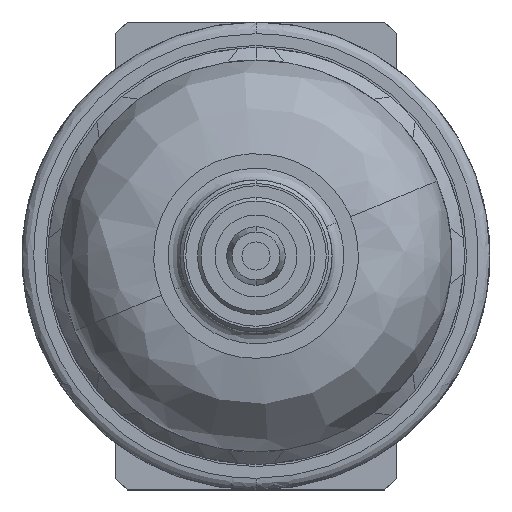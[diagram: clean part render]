
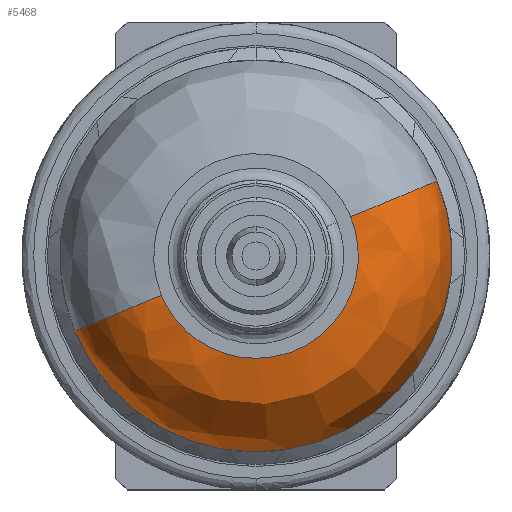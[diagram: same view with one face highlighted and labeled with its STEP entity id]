
A CAD part, front view. The second image highlights one B-rep face of the part: STEP entity #5468.
In plain terms, the highlighted free-form (B-spline) face has degree [3, 3] with [4, 4] control points.
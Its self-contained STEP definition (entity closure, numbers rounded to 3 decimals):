
#163 = VERTEX_POINT ( 'NONE', #5475 ) ;
#393 = CARTESIAN_POINT ( 'NONE',  ( -2.13, -55., -29.969 ) ) ;
#463 = EDGE_LOOP ( 'NONE', ( #1384, #2762, #4159, #5636, #4257 ) ) ;
#490 = EDGE_CURVE ( 'NONE', #6061, #599, #1857, .T. ) ;
#577 = EDGE_CURVE ( 'NONE', #6061, #163, #6000, .T. ) ;
#599 = VERTEX_POINT ( 'NONE', #4326 ) ;
#828 = CARTESIAN_POINT ( 'NONE',  ( 28.295, -47., -24.54 ) ) ;
#992 = DIRECTION ( 'NONE',  ( -0.383, 0., 0.924 ) ) ;
#1083 = VERTEX_POINT ( 'NONE', #5359 ) ;
#1294 = CARTESIAN_POINT ( 'NONE',  ( -2.655, -51.686, -37.36 ) ) ;
#1384 = ORIENTED_EDGE ( 'NONE', *, *, #577, .F. ) ;
#1571 = DIRECTION ( 'NONE',  ( 0.383, 0., -0.924 ) ) ;
#1613 = EDGE_CURVE ( 'NONE', #1083, #4394, #5762, .T. ) ;
#1652 = CIRCLE ( 'NONE', #4777, 16.75 ) ;
#1857 =( BOUNDED_CURVE ( )  B_SPLINE_CURVE ( 3, ( #5675, #2790, #4744, #5162 ),
 .UNSPECIFIED., .F., .T. ) 
 B_SPLINE_CURVE_WITH_KNOTS ( ( 4, 4 ),
 ( 0., 1. ),
 .UNSPECIFIED. ) 
 CURVE ( )  GEOMETRIC_REPRESENTATION_ITEM ( )  RATIONAL_B_SPLINE_CURVE ( ( 1., 0.333, 0.333, 1. ) ) 
 REPRESENTATION_ITEM ( '' )  );
#2299 = EDGE_CURVE ( 'NONE', #599, #4394, #3605, .T. ) ;
#2375 = DIRECTION ( 'NONE',  ( 0.924, 0., 0.383 ) ) ;
#2393 = CARTESIAN_POINT ( 'NONE',  ( 8.084, -47., 3.348 ) ) ;
#2460 = CARTESIAN_POINT ( 'NONE',  ( -15.475, -47., -6.41 ) ) ;
#2529 = CARTESIAN_POINT ( 'NONE',  ( 0., -47., 0. ) ) ;
#2677 = DIRECTION ( 'NONE',  ( 0., 1., 0. ) ) ;
#2687 = CARTESIAN_POINT ( 'NONE',  ( 12.414, -55., 5.142 ) ) ;
#2712 = CARTESIAN_POINT ( 'NONE',  ( -15.475, -51.686, -6.41 ) ) ;
#2749 = CARTESIAN_POINT ( 'NONE',  ( 28.295, -51.686, -24.54 ) ) ;
#2762 = ORIENTED_EDGE ( 'NONE', *, *, #490, .T. ) ;
#2769 = CARTESIAN_POINT ( 'NONE',  ( 14.781, -55., -12.819 ) ) ;
#2790 = CARTESIAN_POINT ( 'NONE',  ( 14.781, -55., -12.819 ) ) ;
#2990 = DIRECTION ( 'NONE',  ( 0., 0., 1. ) ) ;
#3605 = CIRCLE ( 'NONE', #4725, 8. ) ;
#3616 = DIRECTION ( 'NONE',  ( 0., 0., 1. ) ) ;
#3712 = CARTESIAN_POINT ( 'NONE',  ( -8.084, -55., -3.348 ) ) ;
#3732 = CARTESIAN_POINT ( 'NONE',  ( -12.414, -55., -5.142 ) ) ;
#4100 = EDGE_CURVE ( 'NONE', #163, #1083, #1652, .T. ) ;
#4159 = ORIENTED_EDGE ( 'NONE', *, *, #2299, .T. ) ;
#4237 = FACE_OUTER_BOUND ( 'NONE', #463, .T. ) ;
#4257 = ORIENTED_EDGE ( 'NONE', *, *, #4100, .F. ) ;
#4326 = CARTESIAN_POINT ( 'NONE',  ( -8.084, -55., -3.348 ) ) ;
#4394 = VERTEX_POINT ( 'NONE', #2460 ) ;
#4725 = AXIS2_PLACEMENT_3D ( 'NONE', #5898, #1571, #4924 ) ;
#4744 = CARTESIAN_POINT ( 'NONE',  ( -1.387, -55., -19.516 ) ) ;
#4777 = AXIS2_PLACEMENT_3D ( 'NONE', #5087, #2677, #3616 ) ;
#4924 = DIRECTION ( 'NONE',  ( -0.924, 0., -0.383 ) ) ;
#5057 =( BOUNDED_SURFACE ( )  B_SPLINE_SURFACE ( 3, 3, ( 
 ( #3712, #5149, #2769, #5617 ),
 ( #3732, #393, #6071, #2687 ),
 ( #2712, #1294, #2749, #6027 ),
 ( #5164, #6090, #828, #5129 ) ),
 .UNSPECIFIED., .F., .F., .T. ) 
 B_SPLINE_SURFACE_WITH_KNOTS ( ( 4, 4 ),
 ( 4, 4 ),
 ( 0., 1. ),
 ( 0., 1. ),
 .UNSPECIFIED. ) 
 GEOMETRIC_REPRESENTATION_ITEM ( )  RATIONAL_B_SPLINE_SURFACE ( (
 ( 1., 0.333, 0.333, 1.),
 ( 0.805, 0.268, 0.268, 0.805),
 ( 0.805, 0.268, 0.268, 0.805),
 ( 1., 0.333, 0.333, 1.) ) ) 
 REPRESENTATION_ITEM ( '' )  SURFACE ( )  );
#5087 = CARTESIAN_POINT ( 'NONE',  ( 0., -47., 0. ) ) ;
#5129 = CARTESIAN_POINT ( 'NONE',  ( 15.475, -47., 6.41 ) ) ;
#5149 = CARTESIAN_POINT ( 'NONE',  ( -1.387, -55., -19.516 ) ) ;
#5159 = CARTESIAN_POINT ( 'NONE',  ( 8.084, -55., 3.348 ) ) ;
#5162 = CARTESIAN_POINT ( 'NONE',  ( -8.084, -55., -3.348 ) ) ;
#5164 = CARTESIAN_POINT ( 'NONE',  ( -15.475, -47., -6.41 ) ) ;
#5359 = CARTESIAN_POINT ( 'NONE',  ( 0., -47., -16.75 ) ) ;
#5468 = ADVANCED_FACE ( 'NONE', ( #4237 ), #5057, .T. ) ;
#5475 = CARTESIAN_POINT ( 'NONE',  ( 15.475, -47., 6.41 ) ) ;
#5570 = AXIS2_PLACEMENT_3D ( 'NONE', #2393, #992, #2375 ) ;
#5617 = CARTESIAN_POINT ( 'NONE',  ( 8.084, -55., 3.348 ) ) ;
#5636 = ORIENTED_EDGE ( 'NONE', *, *, #1613, .F. ) ;
#5673 = AXIS2_PLACEMENT_3D ( 'NONE', #2529, #5867, #2990 ) ;
#5675 = CARTESIAN_POINT ( 'NONE',  ( 8.084, -55., 3.348 ) ) ;
#5762 = CIRCLE ( 'NONE', #5673, 16.75 ) ;
#5867 = DIRECTION ( 'NONE',  ( 0., 1., 0. ) ) ;
#5898 = CARTESIAN_POINT ( 'NONE',  ( -8.084, -47., -3.348 ) ) ;
#6000 = CIRCLE ( 'NONE', #5570, 8. ) ;
#6027 = CARTESIAN_POINT ( 'NONE',  ( 15.475, -51.686, 6.41 ) ) ;
#6061 = VERTEX_POINT ( 'NONE', #5159 ) ;
#6071 = CARTESIAN_POINT ( 'NONE',  ( 22.697, -55., -19.685 ) ) ;
#6090 = CARTESIAN_POINT ( 'NONE',  ( -2.655, -47., -37.36 ) ) ;
